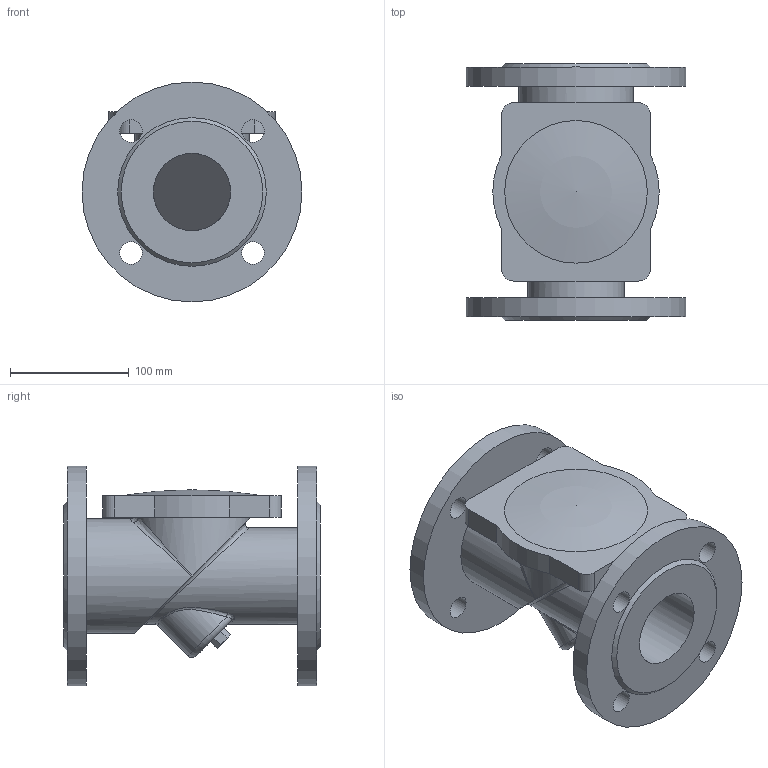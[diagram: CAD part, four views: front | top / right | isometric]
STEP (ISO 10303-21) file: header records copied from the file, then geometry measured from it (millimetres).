
FILE_DESCRIPTION(('STEP AP203'), '1');
FILE_NAME('Êëàïàí îäíîñòâîð÷àòûé îáðàòíûé ôëàíöåâûé 015F.Z DN65 PN10_PN16', '', ('UNSPECIFIED'), ('UNSPECIFIED'), 'ASCON STEP Converter 1.6', 'ASCON Math Kernel', '');
FILE_SCHEMA(('CONFIG_CONTROL_DESIGN'));
Length unit declared in the file: millimetre
Bounding box: 185 x 216 x 185 mm (x, y, z)
Volume: 1663629 mm3; surface area: 267096.5 mm2
Topology: 1 solids, 2 shells, 65 faces, 142 edges, 90 vertices
Faces by surface type: plane 27, cylinder 25, bspline 9, cone 2, torus 1, sphere 1
Full cylindrical faces by diameter (mm): 19 x8, 65 x2, 80 x1, 81 x1, 96 x1, 185 x2
Entity records: 3829 total; most frequent: CARTESIAN_POINT 1954, DIRECTION 254, ORIENTED_EDGE 240, EDGE_CURVE 120, EDGE_LOOP 111, AXIS2_PLACEMENT_3D 106, VERTEX_POINT 89, FACE_BOUND 75
